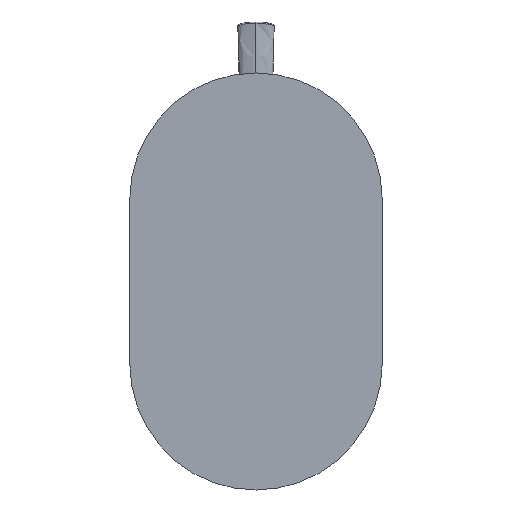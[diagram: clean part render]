
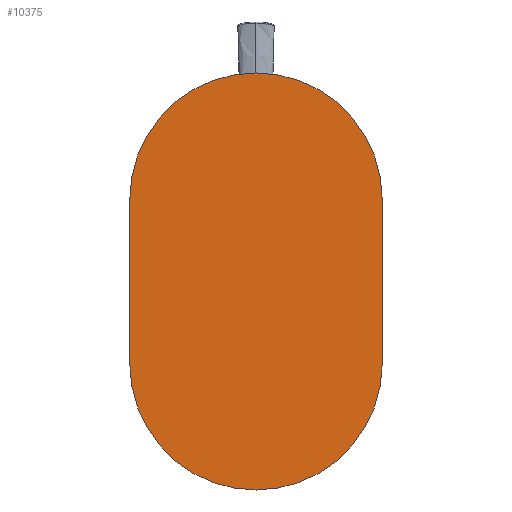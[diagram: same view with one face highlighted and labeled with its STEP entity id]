
A CAD part, front view. The second image highlights one B-rep face of the part: STEP entity #10375.
In plain terms, the highlighted planar face has unit normal (0, -1, 0).
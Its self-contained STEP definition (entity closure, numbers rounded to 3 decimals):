
#96=DIRECTION('',(0.,0.,-1.));
#97=VECTOR('',#96,75.);
#98=CARTESIAN_POINT('',(57.5,33.4,16.5));
#99=LINE('',#98,#97);
#100=CARTESIAN_POINT('',(0.,33.4,-58.5));
#101=DIRECTION('',(0.,1.,0.));
#102=DIRECTION('',(1.,0.,0.));
#103=AXIS2_PLACEMENT_3D('',#100,#101,#102);
#105=DIRECTION('',(0.,0.,1.));
#106=VECTOR('',#105,75.);
#107=CARTESIAN_POINT('',(-57.5,33.4,-58.5));
#108=LINE('',#107,#106);
#109=CARTESIAN_POINT('',(0.,33.4,16.5));
#110=DIRECTION('',(0.,1.,0.));
#111=DIRECTION('',(-1.,0.,0.));
#112=AXIS2_PLACEMENT_3D('',#109,#110,#111);
#9702=CARTESIAN_POINT('',(57.5,33.4,16.5));
#9703=CARTESIAN_POINT('',(57.5,33.4,-58.5));
#9704=VERTEX_POINT('',#9702);
#9705=VERTEX_POINT('',#9703);
#9706=CARTESIAN_POINT('',(-57.5,33.4,-58.5));
#9707=VERTEX_POINT('',#9706);
#9708=CARTESIAN_POINT('',(-57.5,33.4,16.5));
#9709=VERTEX_POINT('',#9708);
#10364=CARTESIAN_POINT('',(0.,33.4,-21.));
#10365=DIRECTION('',(0.,-1.,0.));
#10366=DIRECTION('',(-1.,0.,0.));
#10367=AXIS2_PLACEMENT_3D('',#10364,#10365,#10366);
#10368=PLANE('',#10367);
#10369=ORIENTED_EDGE('',*,*,#10345,.T.);
#10370=ORIENTED_EDGE('',*,*,#10358,.T.);
#10371=ORIENTED_EDGE('',*,*,#10316,.T.);
#10372=ORIENTED_EDGE('',*,*,#10331,.T.);
#10373=EDGE_LOOP('',(#10369,#10370,#10371,#10372));
#10374=FACE_OUTER_BOUND('',#10373,.F.);
#10375=ADVANCED_FACE('',(#10374),#10368,.T.);
#104=CIRCLE('',#103,57.5);
#113=CIRCLE('',#112,57.5);
#10316=EDGE_CURVE('',#9707,#9709,#108,.T.);
#10331=EDGE_CURVE('',#9709,#9704,#113,.T.);
#10345=EDGE_CURVE('',#9704,#9705,#99,.T.);
#10358=EDGE_CURVE('',#9705,#9707,#104,.T.);
